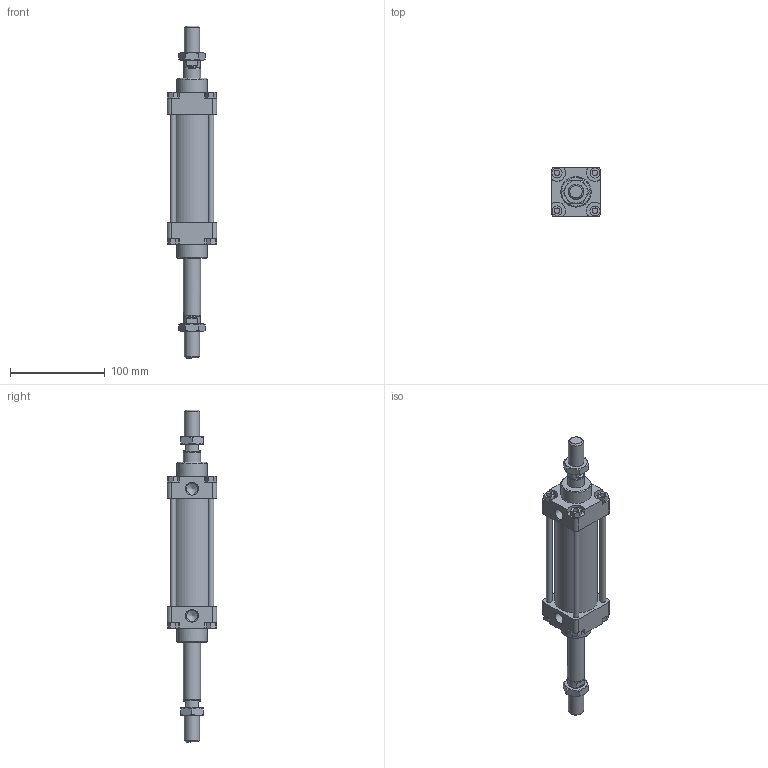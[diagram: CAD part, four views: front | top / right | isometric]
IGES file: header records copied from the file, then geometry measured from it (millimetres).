
Global section: file name: 1303_040_0050_02A; native system: Autodesk Inventor 2014; preprocessor: unknown; author: A. Manieri; date: 20161123.144155; units: millimetre
Bounding box: 52 x 52 x 350 mm (x, y, z)
Volume: 319290.9 mm3; surface area: 101296.5 mm2
Topology: 10 solids, 10 shells, 189 faces, 471 edges, 314 vertices
Faces by surface type: bspline 189
